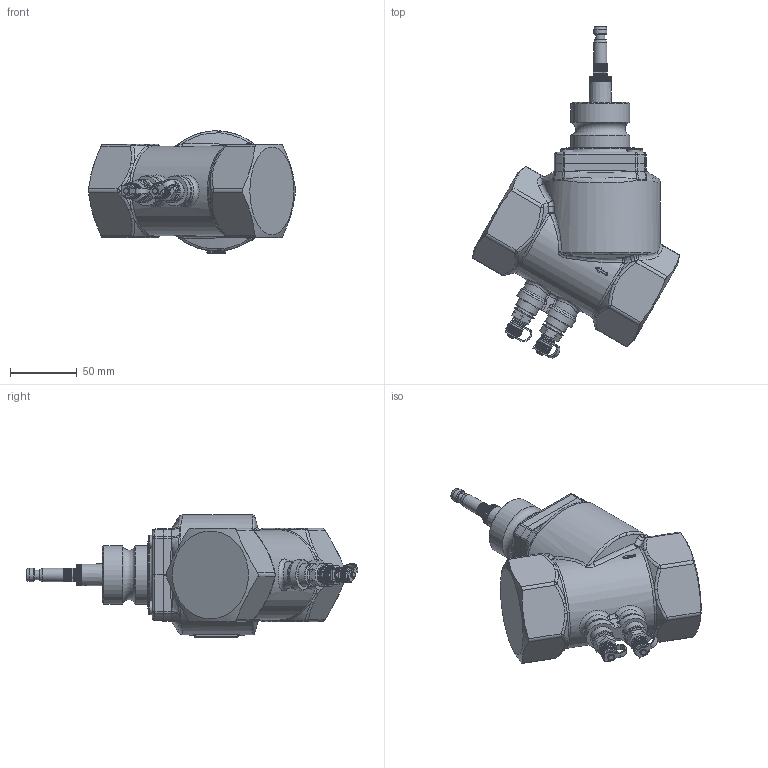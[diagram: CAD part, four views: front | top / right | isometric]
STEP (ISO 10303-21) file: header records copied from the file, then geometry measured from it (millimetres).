
FILE_DESCRIPTION(/* description */ ('Dansk beskrivelse'),/* implementation_level */ '2;1');
FILE_NAME(/* name */ 'C:\Users\jjo\Desktop\Siemens Cad modeller\53-1576.stp',/* time_stamp */ '2015-05-05T12:54:10+02:00',/* author */ ('jjo'),/* organization */ (''),/* preprocessor_version */ 'ST-DEVELOPER v15.2',/* originating_system */ 'Autodesk Inventor 2014',/* authorisation */ '0 mm^3');
FILE_SCHEMA (('AUTOMOTIVE_DESIGN { 1 0 10303 214 3 1 1 }'));
Products named in the file (1): 53-1576_Shrinkwrap_1
Bounding box: 154.95 x 248.48 x 91.41 mm (x, y, z)
Volume: 960205.7 mm3; surface area: 68888.6 mm2
Topology: 1 solids, 1 shells, 2047 faces, 5482 edges, 3516 vertices
Faces by surface type: plane 970, cylinder 487, bspline 451, cone 70, torus 45, sphere 24
Full cylindrical faces by diameter (mm): 2.9 x2, 5 x2, 7 x1, 8.3 x2, 9.728 x2, 10 x6, 10.5 x1, 11 x2, 11.5 x2, 17 x4, 44 x2
Entity records: 74208 total; most frequent: CARTESIAN_POINT 24855, ORIENTED_EDGE 10784, DIRECTION 8600, EDGE_CURVE 5388, VERTEX_POINT 3500, AXIS2_PLACEMENT_3D 3001, LINE 2598, VECTOR 2598
